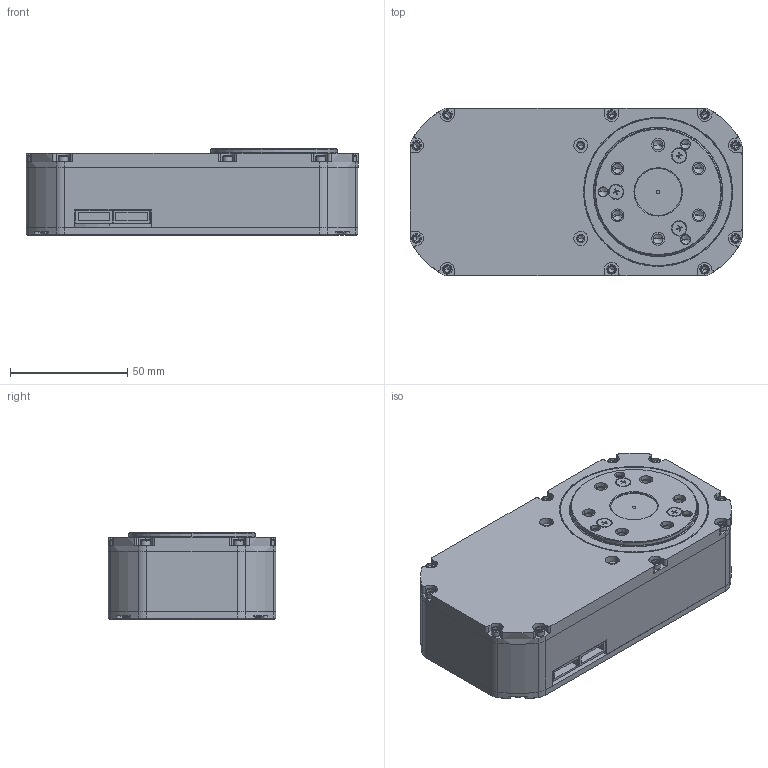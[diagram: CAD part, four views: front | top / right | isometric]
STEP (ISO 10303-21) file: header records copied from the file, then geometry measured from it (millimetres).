
FILE_DESCRIPTION (( 'STEP AP214' ), '1' );
FILE_NAME ('7033-嗆儂-潠趙耀倰.STEP', '2025-12-03T08:38:14', ( '' ), ( '' ), 'SwSTEP 2.0', 'SolidWorks 2024', '' );
FILE_SCHEMA (( 'AUTOMOTIVE_DESIGN' ));
Length unit declared in the file: millimetre
Products named in the file (13): 7033-油封-1.4; M3-6扁平头螺丝; 7033-轴承盖-1.4; 7033-输出销_35.5; m3-6-6十字沉头螺丝; 7033-舵机-简化模型; 7033-磁环盖-1.4; 7033--55-66-5BNAT555; M3-6-4杯头螺丝; 7033-齿轮盖-1.5; 7033-外壳-1.5; 7033-外电板; 7033-舵机输出盘-1.5
Assembly tree (26 placements, depth 2):
  7033-舵机-简化模型
    7033-外壳-1.5
    7033-轴承盖-1.4
    7033-外电板
    7033-磁环盖-1.4
    7033-舵机输出盘-1.5
    7033-齿轮盖-1.5
    7033--55-66-5BNAT555
    7033-油封-1.4
    7033-输出销_35.5
    M3-6扁平头螺丝  x4
    M3-6-4杯头螺丝  x10
    m3-6-6十字沉头螺丝  x3
Bounding box: 141.5 x 71.5 x 36.9 mm (x, y, z)
Volume: 144233 mm3; surface area: 115136.6 mm2
Topology: 28 solids, 28 shells, 1430 faces, 3613 edges, 2257 vertices
Faces by surface type: cylinder 633, plane 511, cone 244, torus 42
Entity records: 35316 total; most frequent: DIRECTION 6584, CARTESIAN_POINT 6061, ORIENTED_EDGE 5726, EDGE_CURVE 2863, AXIS2_PLACEMENT_3D 2593, VERTEX_POINT 1852, CIRCLE 1447, VECTOR 1398
